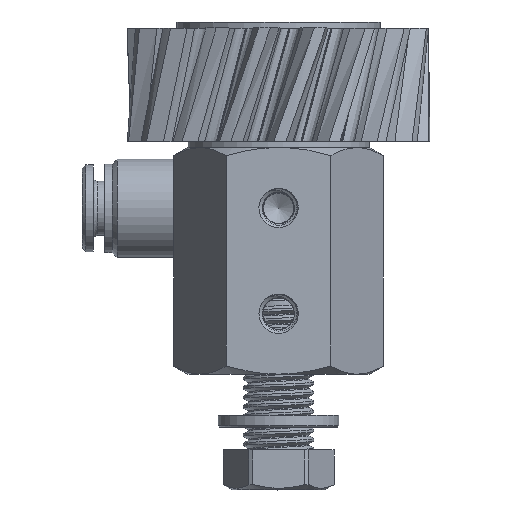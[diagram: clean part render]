
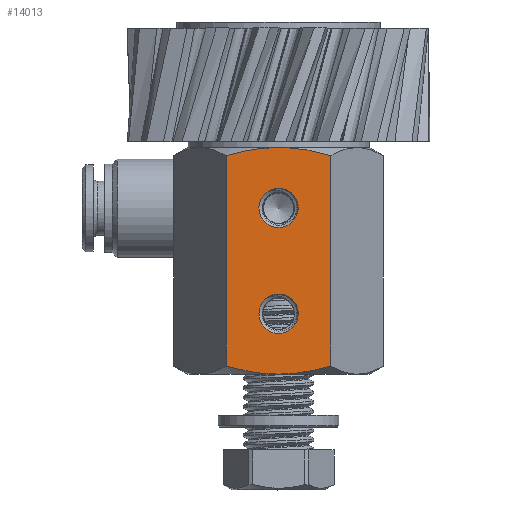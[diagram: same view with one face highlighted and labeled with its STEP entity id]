
A CAD part, top view. The second image highlights one B-rep face of the part: STEP entity #14013.
In plain terms, the highlighted planar face has unit normal (0, 0, 1).
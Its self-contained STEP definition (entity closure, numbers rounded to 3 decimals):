
#58 = LINE ( 'NONE', #20982, #61170 ) ;
#403 = CARTESIAN_POINT ( 'NONE',  ( -4.663, 29.523, 12. ) ) ;
#496 = ORIENTED_EDGE ( 'NONE', *, *, #50159, .T. ) ;
#3383 = CARTESIAN_POINT ( 'NONE',  ( -6.928, 28.928, 12. ) ) ;
#3702 = EDGE_CURVE ( 'NONE', #50919, #44186, #62210, .T. ) ;
#3864 = CARTESIAN_POINT ( 'NONE',  ( 2.933, 0.197, 12. ) ) ;
#4812 = CARTESIAN_POINT ( 'NONE',  ( 4.661, 29.523, 12. ) ) ;
#5558 = VERTEX_POINT ( 'NONE', #16540 ) ;
#6894 = DIRECTION ( 'NONE',  ( 0., 0., 1. ) ) ;
#9187 = CARTESIAN_POINT ( 'NONE',  ( 5.801, 0.746, 12. ) ) ;
#9510 = ORIENTED_EDGE ( 'NONE', *, *, #3702, .F. ) ;
#9998 = CARTESIAN_POINT ( 'NONE',  ( -6.928, 28.928, 12. ) ) ;
#11003 = EDGE_CURVE ( 'NONE', #43698, #17368, #58, .T. ) ;
#12223 = CARTESIAN_POINT ( 'NONE',  ( 6.928, 30., 12. ) ) ;
#13260 = DIRECTION ( 'NONE',  ( 0., 0., 1. ) ) ;
#13926 = EDGE_CURVE ( 'NONE', #50919, #55693, #55605, .T. ) ;
#14013 = ADVANCED_FACE ( 'NONE', ( #22530, #27822, #38470 ), #16493, .T. ) ;
#14073 = VERTEX_POINT ( 'NONE', #35689 ) ;
#14508 = CARTESIAN_POINT ( 'NONE',  ( 2.353, 0.124, 12. ) ) ;
#14584 = ORIENTED_EDGE ( 'NONE', *, *, #13926, .T. ) ;
#14738 = CARTESIAN_POINT ( 'NONE',  ( 2.354, 29.897, 12. ) ) ;
#14766 = B_SPLINE_CURVE_WITH_KNOTS ( 'NONE', 3,
 ( #46749, #68390, #63062, #14508, #3864, #36129, #9187, #69468 ),
 .UNSPECIFIED., .F., .F.,
 ( 4, 2, 2, 4 ),
 ( 0.022, 0.024, 0.026, 0.029 ),
 .UNSPECIFIED. ) ;
#14784 = CARTESIAN_POINT ( 'NONE',  ( 0., 22., 12. ) ) ;
#16493 = PLANE ( 'NONE',  #45876 ) ;
#16540 = CARTESIAN_POINT ( 'NONE',  ( -2.6, 22., 12. ) ) ;
#17189 = EDGE_CURVE ( 'NONE', #55693, #43698, #32449, .T. ) ;
#17368 = VERTEX_POINT ( 'NONE', #37969 ) ;
#18580 = DIRECTION ( 'NONE',  ( 1., 0., 0. ) ) ;
#20632 = CARTESIAN_POINT ( 'NONE',  ( 0., 30., 12. ) ) ;
#20982 = CARTESIAN_POINT ( 'NONE',  ( -6.928, 30., 12. ) ) ;
#21038 = CARTESIAN_POINT ( 'NONE',  ( 6.928, 1.072, 12. ) ) ;
#22530 = FACE_BOUND ( 'NONE', #23593, .T. ) ;
#22898 = VECTOR ( 'NONE', #49584, 1000. ) ;
#22993 = CARTESIAN_POINT ( 'NONE',  ( 0., 0., 12. ) ) ;
#23111 = EDGE_CURVE ( 'NONE', #17368, #49829, #60582, .T. ) ;
#23593 = EDGE_LOOP ( 'NONE', ( #31600 ) ) ;
#25886 = CARTESIAN_POINT ( 'NONE',  ( 6.928, 28.928, 12. ) ) ;
#26092 = CARTESIAN_POINT ( 'NONE',  ( 0., 30., 12. ) ) ;
#27673 = CARTESIAN_POINT ( 'NONE',  ( -5.801, 29.254, 12. ) ) ;
#27822 = FACE_BOUND ( 'NONE', #33549, .T. ) ;
#28469 = CARTESIAN_POINT ( 'NONE',  ( 0., 0., 12. ) ) ;
#28516 = DIRECTION ( 'NONE',  ( 1., 0., 0. ) ) ;
#29139 = CARTESIAN_POINT ( 'NONE',  ( -6.928, 1.072, 12. ) ) ;
#31600 = ORIENTED_EDGE ( 'NONE', *, *, #35724, .F. ) ;
#31609 = CARTESIAN_POINT ( 'NONE',  ( -2.933, 29.803, 12. ) ) ;
#32449 = B_SPLINE_CURVE_WITH_KNOTS ( 'NONE', 3,
 ( #20632, #59587, #37623, #54276, #31609, #403, #27673, #9998 ),
 .UNSPECIFIED., .F., .F.,
 ( 4, 2, 2, 4 ),
 ( 0.022, 0.024, 0.026, 0.029 ),
 .UNSPECIFIED. ) ;
#33549 = EDGE_LOOP ( 'NONE', ( #496 ) ) ;
#35689 = CARTESIAN_POINT ( 'NONE',  ( 2.6, 8., 12. ) ) ;
#35724 = EDGE_CURVE ( 'NONE', #14073, #14073, #53956, .T. ) ;
#36129 = CARTESIAN_POINT ( 'NONE',  ( 4.663, 0.477, 12. ) ) ;
#36360 = CARTESIAN_POINT ( 'NONE',  ( 1.186, 30., 12. ) ) ;
#36406 = DIRECTION ( 'NONE',  ( 0., 0., -1. ) ) ;
#37623 = CARTESIAN_POINT ( 'NONE',  ( -1.183, 29.974, 12. ) ) ;
#37969 = CARTESIAN_POINT ( 'NONE',  ( -6.928, 1.072, 12. ) ) ;
#38470 = FACE_OUTER_BOUND ( 'NONE', #55390, .T. ) ;
#41421 = CIRCLE ( 'NONE', #61788, 2.6 ) ;
#41583 = CARTESIAN_POINT ( 'NONE',  ( 0., 30., 12. ) ) ;
#43698 = VERTEX_POINT ( 'NONE', #3383 ) ;
#44186 = VERTEX_POINT ( 'NONE', #21038 ) ;
#44602 = CARTESIAN_POINT ( 'NONE',  ( 6.928, 30., 12. ) ) ;
#44975 = ORIENTED_EDGE ( 'NONE', *, *, #17189, .T. ) ;
#45876 = AXIS2_PLACEMENT_3D ( 'NONE', #12223, #6894, #28516 ) ;
#46139 = CARTESIAN_POINT ( 'NONE',  ( -4.661, 0.477, 12. ) ) ;
#46749 = CARTESIAN_POINT ( 'NONE',  ( 0., 0., 12. ) ) ;
#49431 = AXIS2_PLACEMENT_3D ( 'NONE', #61805, #13260, #18580 ) ;
#49584 = DIRECTION ( 'NONE',  ( 0., -1., 0. ) ) ;
#49679 = EDGE_CURVE ( 'NONE', #49829, #44186, #14766, .T. ) ;
#49691 = ORIENTED_EDGE ( 'NONE', *, *, #23111, .T. ) ;
#49829 = VERTEX_POINT ( 'NONE', #22993 ) ;
#50159 = EDGE_CURVE ( 'NONE', #5558, #5558, #41421, .T. ) ;
#50919 = VERTEX_POINT ( 'NONE', #25886 ) ;
#51119 = CARTESIAN_POINT ( 'NONE',  ( -5.8, 0.746, 12. ) ) ;
#53391 = CARTESIAN_POINT ( 'NONE',  ( 5.8, 29.254, 12. ) ) ;
#53956 = CIRCLE ( 'NONE', #49431, 2.6 ) ;
#54276 = CARTESIAN_POINT ( 'NONE',  ( -2.353, 29.876, 12. ) ) ;
#55390 = EDGE_LOOP ( 'NONE', ( #14584, #44975, #59914, #49691, #62745, #9510 ) ) ;
#55605 = B_SPLINE_CURVE_WITH_KNOTS ( 'NONE', 3,
 ( #58702, #53391, #4812, #14738, #36360, #26092 ),
 .UNSPECIFIED., .F., .F.,
 ( 4, 2, 4 ),
 ( 0.015, 0.019, 0.022 ),
 .UNSPECIFIED. ) ;
#55693 = VERTEX_POINT ( 'NONE', #41583 ) ;
#57138 = CARTESIAN_POINT ( 'NONE',  ( -1.186, 0., 12. ) ) ;
#58702 = CARTESIAN_POINT ( 'NONE',  ( 6.928, 28.928, 12. ) ) ;
#59587 = CARTESIAN_POINT ( 'NONE',  ( -0.593, 30., 12. ) ) ;
#59914 = ORIENTED_EDGE ( 'NONE', *, *, #11003, .T. ) ;
#59941 = DIRECTION ( 'NONE',  ( 0., -1., 0. ) ) ;
#60582 = B_SPLINE_CURVE_WITH_KNOTS ( 'NONE', 3,
 ( #29139, #51119, #46139, #67779, #57138, #28469 ),
 .UNSPECIFIED., .F., .F.,
 ( 4, 2, 4 ),
 ( 0.015, 0.019, 0.022 ),
 .UNSPECIFIED. ) ;
#61170 = VECTOR ( 'NONE', #59941, 1000. ) ;
#61788 = AXIS2_PLACEMENT_3D ( 'NONE', #14784, #36406, #64041 ) ;
#61805 = CARTESIAN_POINT ( 'NONE',  ( 0., 8., 12. ) ) ;
#62210 = LINE ( 'NONE', #44602, #22898 ) ;
#62745 = ORIENTED_EDGE ( 'NONE', *, *, #49679, .T. ) ;
#63062 = CARTESIAN_POINT ( 'NONE',  ( 1.183, 0.026, 12. ) ) ;
#64041 = DIRECTION ( 'NONE',  ( -1., 0., 0. ) ) ;
#67779 = CARTESIAN_POINT ( 'NONE',  ( -2.354, 0.103, 12. ) ) ;
#68390 = CARTESIAN_POINT ( 'NONE',  ( 0.593, 0., 12. ) ) ;
#69468 = CARTESIAN_POINT ( 'NONE',  ( 6.928, 1.072, 12. ) ) ;
